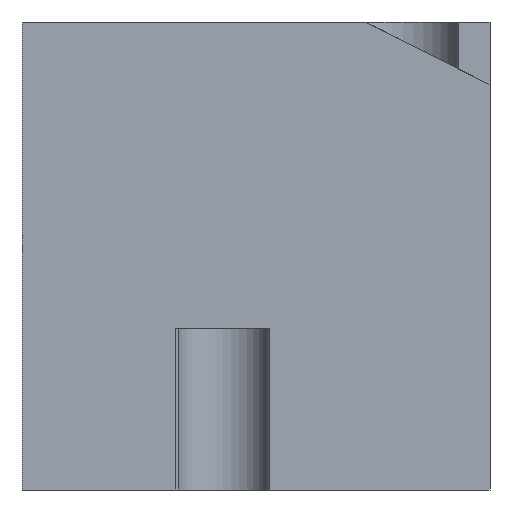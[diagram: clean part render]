
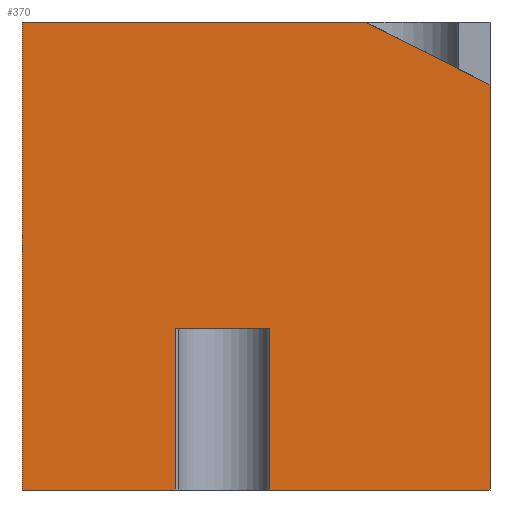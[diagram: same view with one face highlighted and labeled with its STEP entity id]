
A CAD part, front view. The second image highlights one B-rep face of the part: STEP entity #370.
In plain terms, the highlighted planar face has unit normal (0, -1, 0).
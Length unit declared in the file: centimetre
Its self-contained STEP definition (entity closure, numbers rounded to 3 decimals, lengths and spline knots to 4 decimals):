
#19 = ORIENTED_EDGE ( 'NONE', *, *, #608, .F. ) ;
#22 = LINE ( 'NONE', #944, #989 ) ;
#26 = EDGE_LOOP ( 'NONE', ( #662, #44, #651, #892, #19, #636, #738, #302, #211 ) ) ;
#34 = LINE ( 'NONE', #804, #813 ) ;
#44 = ORIENTED_EDGE ( 'NONE', *, *, #129, .T. ) ;
#50 = EDGE_CURVE ( 'NONE', #842, #74, #22, .T. ) ;
#52 = DIRECTION ( 'NONE',  ( 0.893, 0., -0.45 ) ) ;
#56 = CARTESIAN_POINT ( 'NONE',  ( 529.0089, 0., 346.1309 ) ) ;
#68 = CARTESIAN_POINT ( 'NONE',  ( 733.9856, 0., 1000. ) ) ;
#73 = CARTESIAN_POINT ( 'NONE',  ( 0., 0., 346.1309 ) ) ;
#74 = VERTEX_POINT ( 'NONE', #168 ) ;
#129 = EDGE_CURVE ( 'NONE', #561, #483, #146, .T. ) ;
#130 = DIRECTION ( 'NONE',  ( 1., 0., 0. ) ) ;
#134 = CARTESIAN_POINT ( 'NONE',  ( 0., 0., 1000. ) ) ;
#146 = LINE ( 'NONE', #56, #692 ) ;
#168 = CARTESIAN_POINT ( 'NONE',  ( 327.3753, 0., 0. ) ) ;
#204 = LINE ( 'NONE', #591, #235 ) ;
#211 = ORIENTED_EDGE ( 'NONE', *, *, #331, .F. ) ;
#235 = VECTOR ( 'NONE', #52, 100. ) ;
#243 = VERTEX_POINT ( 'NONE', #68 ) ;
#272 = CARTESIAN_POINT ( 'NONE',  ( 1000., 0., 0. ) ) ;
#278 = LINE ( 'NONE', #134, #491 ) ;
#300 = CARTESIAN_POINT ( 'NONE',  ( 327.3753, 0., 346.1309 ) ) ;
#302 = ORIENTED_EDGE ( 'NONE', *, *, #50, .T. ) ;
#331 = EDGE_CURVE ( 'NONE', #374, #74, #761, .T. ) ;
#355 = EDGE_CURVE ( 'NONE', #561, #374, #525, .T. ) ;
#370 = ADVANCED_FACE ( 'NONE', ( #373 ), #543, .F. ) ;
#373 = FACE_OUTER_BOUND ( 'NONE', #26, .T. ) ;
#374 = VERTEX_POINT ( 'NONE', #300 ) ;
#381 = CARTESIAN_POINT ( 'NONE',  ( 327.3753, 0., 346.1309 ) ) ;
#413 = LINE ( 'NONE', #877, #664 ) ;
#417 = VECTOR ( 'NONE', #978, 100. ) ;
#418 = CARTESIAN_POINT ( 'NONE',  ( 1000., 0., 866.0798 ) ) ;
#424 = LINE ( 'NONE', #749, #457 ) ;
#443 = CARTESIAN_POINT ( 'NONE',  ( 0., 0., 1000. ) ) ;
#457 = VECTOR ( 'NONE', #675, 100. ) ;
#483 = VERTEX_POINT ( 'NONE', #728 ) ;
#491 = VECTOR ( 'NONE', #130, 100. ) ;
#525 = LINE ( 'NONE', #73, #417 ) ;
#537 = EDGE_CURVE ( 'NONE', #677, #243, #278, .T. ) ;
#541 = DIRECTION ( 'NONE',  ( 1., 0., 0. ) ) ;
#543 = PLANE ( 'NONE',  #613 ) ;
#561 = VERTEX_POINT ( 'NONE', #679 ) ;
#576 = CARTESIAN_POINT ( 'NONE',  ( 0., 0., 0. ) ) ;
#591 = CARTESIAN_POINT ( 'NONE',  ( 1000., 0., 866.0798 ) ) ;
#608 = EDGE_CURVE ( 'NONE', #243, #940, #204, .T. ) ;
#613 = AXIS2_PLACEMENT_3D ( 'NONE', #690, #919, #988 ) ;
#636 = ORIENTED_EDGE ( 'NONE', *, *, #537, .F. ) ;
#651 = ORIENTED_EDGE ( 'NONE', *, *, #666, .T. ) ;
#662 = ORIENTED_EDGE ( 'NONE', *, *, #355, .F. ) ;
#664 = VECTOR ( 'NONE', #949, 100. ) ;
#666 = EDGE_CURVE ( 'NONE', #483, #979, #424, .T. ) ;
#675 = DIRECTION ( 'NONE',  ( 1., 0., 0. ) ) ;
#677 = VERTEX_POINT ( 'NONE', #443 ) ;
#679 = CARTESIAN_POINT ( 'NONE',  ( 529.0089, 0., 346.1309 ) ) ;
#681 = DIRECTION ( 'NONE',  ( 0., 0., -1. ) ) ;
#685 = DIRECTION ( 'NONE',  ( 0., 0., -1. ) ) ;
#690 = CARTESIAN_POINT ( 'NONE',  ( 0., 0., 1000. ) ) ;
#692 = VECTOR ( 'NONE', #685, 100. ) ;
#728 = CARTESIAN_POINT ( 'NONE',  ( 529.0089, 0., 0. ) ) ;
#738 = ORIENTED_EDGE ( 'NONE', *, *, #895, .T. ) ;
#749 = CARTESIAN_POINT ( 'NONE',  ( 0., 0., 0. ) ) ;
#752 = VECTOR ( 'NONE', #681, 100. ) ;
#761 = LINE ( 'NONE', #381, #752 ) ;
#804 = CARTESIAN_POINT ( 'NONE',  ( 1000., 0., 1000. ) ) ;
#809 = EDGE_CURVE ( 'NONE', #940, #979, #34, .T. ) ;
#813 = VECTOR ( 'NONE', #954, 100. ) ;
#842 = VERTEX_POINT ( 'NONE', #576 ) ;
#877 = CARTESIAN_POINT ( 'NONE',  ( 0., 0., 1000. ) ) ;
#892 = ORIENTED_EDGE ( 'NONE', *, *, #809, .F. ) ;
#895 = EDGE_CURVE ( 'NONE', #677, #842, #413, .T. ) ;
#919 = DIRECTION ( 'NONE',  ( 0., 1., 0. ) ) ;
#940 = VERTEX_POINT ( 'NONE', #418 ) ;
#944 = CARTESIAN_POINT ( 'NONE',  ( 0., 0., 0. ) ) ;
#949 = DIRECTION ( 'NONE',  ( 0., 0., -1. ) ) ;
#954 = DIRECTION ( 'NONE',  ( 0., 0., -1. ) ) ;
#978 = DIRECTION ( 'NONE',  ( -1., 0., 0. ) ) ;
#979 = VERTEX_POINT ( 'NONE', #272 ) ;
#988 = DIRECTION ( 'NONE',  ( 0., 0., 1. ) ) ;
#989 = VECTOR ( 'NONE', #541, 100. ) ;
